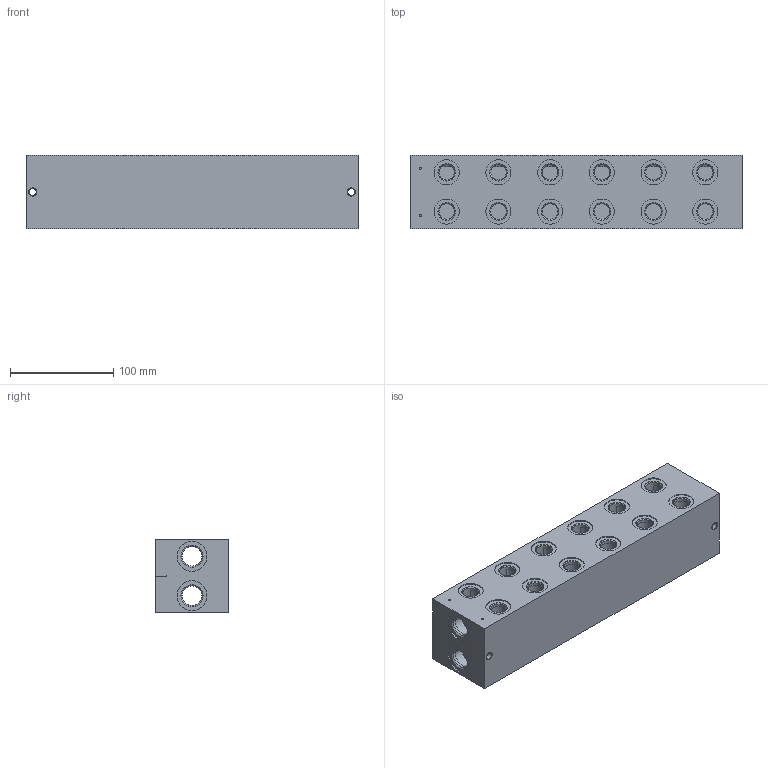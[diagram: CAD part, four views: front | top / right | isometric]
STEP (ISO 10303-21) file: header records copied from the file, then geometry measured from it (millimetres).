
FILE_DESCRIPTION((''),'2;1');
FILE_NAME('27563100','2015-11-27T',('Ahcz.brigadnik05'),(''),'PRO/ENGINEER BY PARAMETRIC TECHNOLOGY CORPORATION, 2015110','PRO/ENGINEER BY PARAMETRIC TECHNOLOGY CORPORATION, 2015110','');
FILE_SCHEMA(('AUTOMOTIVE_DESIGN { 1 0 10303 214 1 1 1 1 }'));
Length unit declared in the file: millimetre
Products named in the file (1): 27563100
Bounding box: 321 x 71 x 71 mm (x, y, z)
Volume: 531636.2 mm3; surface area: 205474.9 mm2
Topology: 1 solids, 47 shells, 396 faces, 1569 edges, 1558 vertices
Faces by surface type: cylinder 274, plane 78, cone 44
Entity records: 22955 total; most frequent: CARTESIAN_POINT 4702, DIRECTION 2897, ORIENTED_EDGE 1980, PRESENTATION_STYLE_ASSIGNMENT 1662, STYLED_ITEM 1662, CURVE_STYLE 1609, EDGE_CURVE 1082, AXIS2_PLACEMENT_3D 1021
